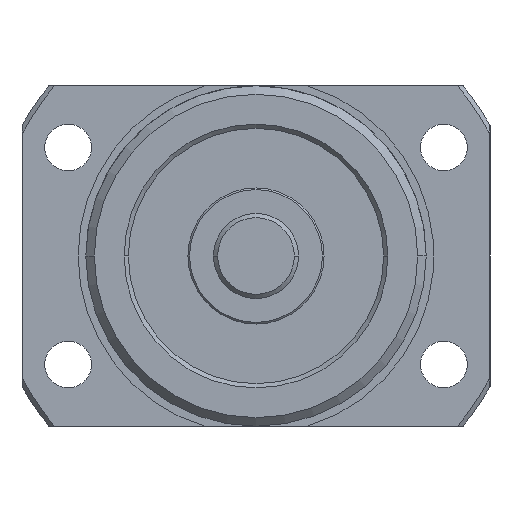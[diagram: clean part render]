
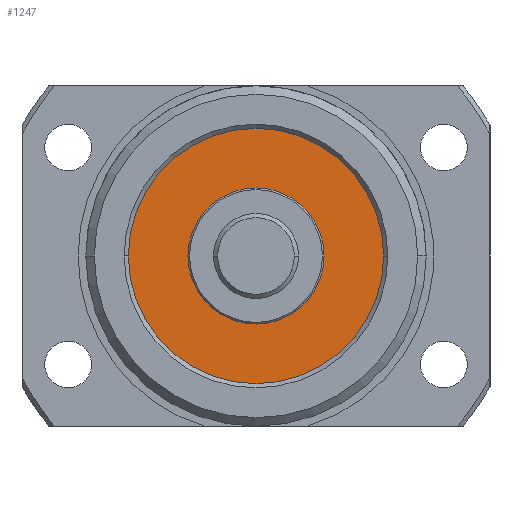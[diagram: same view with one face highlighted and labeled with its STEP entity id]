
A CAD part, left-side view. The second image highlights one B-rep face of the part: STEP entity #1247.
In plain terms, the highlighted planar face has unit normal (-1, 0, 0).
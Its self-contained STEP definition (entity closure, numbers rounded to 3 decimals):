
#201 = VERTEX_POINT ( 'NONE', #2395 ) ;
#285 = CARTESIAN_POINT ( 'NONE',  ( -41.5, 0., 0. ) ) ;
#286 = DIRECTION ( 'NONE',  ( -1., 0., 0. ) ) ;
#288 = DIRECTION ( 'NONE',  ( 0., -1., 0. ) ) ;
#409 = VERTEX_POINT ( 'NONE', #2834 ) ;
#756 = CARTESIAN_POINT ( 'NONE',  ( -41.5, 0., 0. ) ) ;
#757 = DIRECTION ( 'NONE',  ( -1., 0., 0. ) ) ;
#758 = DIRECTION ( 'NONE',  ( 0., -1., 0. ) ) ;
#851 = CARTESIAN_POINT ( 'NONE',  ( -41.5, 0., 0. ) ) ;
#852 = DIRECTION ( 'NONE',  ( -1., 0., 0. ) ) ;
#853 = DIRECTION ( 'NONE',  ( 0., -1., 0. ) ) ;
#993 = DIRECTION ( 'NONE',  ( 0., -1., 0. ) ) ;
#998 = PLANE ( 'NONE',  #2984 ) ;
#1000 = CARTESIAN_POINT ( 'NONE',  ( -41.5, 0., 0. ) ) ;
#1003 = DIRECTION ( 'NONE',  ( -1., 0., 0. ) ) ;
#1247 = ADVANCED_FACE ( 'NONE', ( #1700, #1708 ), #998, .T. ) ;
#1617 = VERTEX_POINT ( 'NONE', #6062 ) ;
#1700 = FACE_BOUND ( 'NONE', #3620, .T. ) ;
#1708 = FACE_OUTER_BOUND ( 'NONE', #3632, .T. ) ;
#1909 = CIRCLE ( 'NONE', #3078, 8. ) ;
#2395 = CARTESIAN_POINT ( 'NONE',  ( -41.5, 0., -8. ) ) ;
#2529 = CIRCLE ( 'NONE', #3135, 15. ) ;
#2556 = CIRCLE ( 'NONE', #3158, 8. ) ;
#2608 = CIRCLE ( 'NONE', #3178, 15. ) ;
#2834 = CARTESIAN_POINT ( 'NONE',  ( -41.5, -15., 0. ) ) ;
#2984 = AXIS2_PLACEMENT_3D ( 'NONE', #1000, #1003, #993 ) ;
#3078 = AXIS2_PLACEMENT_3D ( 'NONE', #5796, #5797, #5798 ) ;
#3135 = AXIS2_PLACEMENT_3D ( 'NONE', #285, #286, #288 ) ;
#3158 = AXIS2_PLACEMENT_3D ( 'NONE', #756, #757, #758 ) ;
#3178 = AXIS2_PLACEMENT_3D ( 'NONE', #851, #852, #853 ) ;
#3326 = CARTESIAN_POINT ( 'NONE',  ( -41.5, 15., 0. ) ) ;
#3620 = EDGE_LOOP ( 'NONE', ( #4869, #4870 ) ) ;
#3632 = EDGE_LOOP ( 'NONE', ( #4871, #4872 ) ) ;
#4869 = ORIENTED_EDGE ( 'NONE', *, *, #5123, .F. ) ;
#4870 = ORIENTED_EDGE ( 'NONE', *, *, #5293, .F. ) ;
#4871 = ORIENTED_EDGE ( 'NONE', *, *, #5261, .T. ) ;
#4872 = ORIENTED_EDGE ( 'NONE', *, *, #5329, .T. ) ;
#5123 = EDGE_CURVE ( 'NONE', #201, #1617, #1909, .T. ) ;
#5261 = EDGE_CURVE ( 'NONE', #409, #5883, #2529, .T. ) ;
#5293 = EDGE_CURVE ( 'NONE', #1617, #201, #2556, .T. ) ;
#5329 = EDGE_CURVE ( 'NONE', #5883, #409, #2608, .T. ) ;
#5796 = CARTESIAN_POINT ( 'NONE',  ( -41.5, 0., 0. ) ) ;
#5797 = DIRECTION ( 'NONE',  ( -1., 0., 0. ) ) ;
#5798 = DIRECTION ( 'NONE',  ( 0., -1., 0. ) ) ;
#5883 = VERTEX_POINT ( 'NONE', #3326 ) ;
#6062 = CARTESIAN_POINT ( 'NONE',  ( -41.5, 0., 8. ) ) ;
